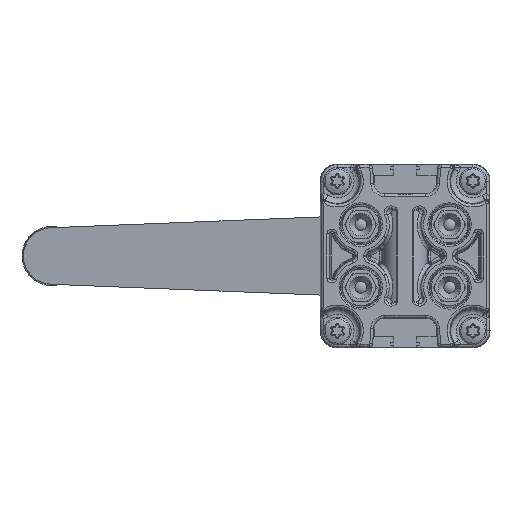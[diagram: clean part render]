
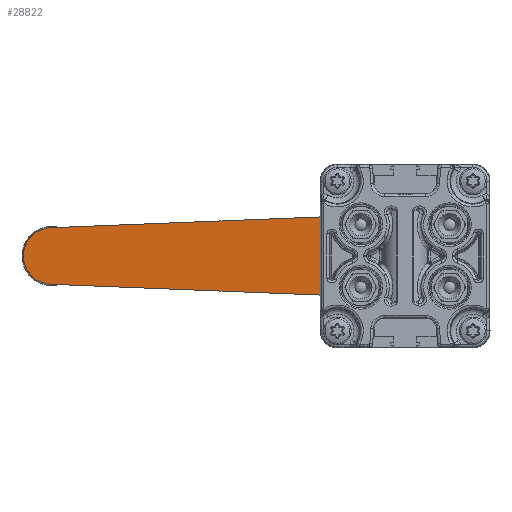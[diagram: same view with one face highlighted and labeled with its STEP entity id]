
A CAD part, left-side view. The second image highlights one B-rep face of the part: STEP entity #28822.
In plain terms, the highlighted planar face has unit normal (-0.997, 0.073, 0) as drawn and (0.997, 0.073, 0) by its records, which use the part's own axes.
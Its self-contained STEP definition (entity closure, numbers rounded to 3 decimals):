
#550=ELLIPSE('',#30699,15.04,15.);
#551=ELLIPSE('',#30700,10.027,10.);
#552=ELLIPSE('',#30701,12.784,12.75);
#2020=LINE('',#40232,#4055);
#2021=LINE('',#40236,#4056);
#4055=VECTOR('',#33303,1000.);
#4056=VECTOR('',#33306,1000.);
#6071=PLANE('',#30698);
#6957=ORIENTED_EDGE('',*,*,#15243,.T.);
#6958=ORIENTED_EDGE('',*,*,#15244,.T.);
#6959=ORIENTED_EDGE('',*,*,#15245,.T.);
#6960=ORIENTED_EDGE('',*,*,#15246,.T.);
#6961=ORIENTED_EDGE('',*,*,#15247,.F.);
#15243=EDGE_CURVE('',#19411,#19412,#550,.F.);
#15244=EDGE_CURVE('',#19412,#19413,#2020,.T.);
#15245=EDGE_CURVE('',#19413,#19414,#551,.F.);
#15246=EDGE_CURVE('',#19414,#19411,#2021,.T.);
#15247=EDGE_CURVE('',#19415,#19415,#552,.F.);
#19411=VERTEX_POINT('',#40230);
#19412=VERTEX_POINT('',#40231);
#19413=VERTEX_POINT('',#40233);
#19414=VERTEX_POINT('',#40235);
#19415=VERTEX_POINT('',#40238);
#23097=EDGE_LOOP('',(#6957,#6958,#6959,#6960));
#23098=EDGE_LOOP('',(#6961));
#25067=FACE_BOUND('',#23097,.T.);
#25068=FACE_BOUND('',#23098,.T.);
#28822=ADVANCED_FACE('',(#25067,#25068),#6071,.F.);
#30698=AXIS2_PLACEMENT_3D('',#40228,#33299,#33300);
#30699=AXIS2_PLACEMENT_3D('',#40229,#33301,#33302);
#30700=AXIS2_PLACEMENT_3D('',#40234,#33304,#33305);
#30701=AXIS2_PLACEMENT_3D('',#40237,#33307,#33308);
#33299=DIRECTION('',(-0.997,-0.073,0.));
#33300=DIRECTION('',(0.073,-0.997,0.));
#33301=DIRECTION('',(-0.997,-0.073,0.));
#33302=DIRECTION('',(-0.073,0.997,0.));
#33303=DIRECTION('',(-0.073,0.997,0.04));
#33304=DIRECTION('',(-0.997,-0.073,0.));
#33305=DIRECTION('',(-0.073,0.997,0.));
#33306=DIRECTION('',(0.073,-0.997,0.04));
#33307=DIRECTION('',(-0.997,-0.073,0.));
#33308=DIRECTION('',(-0.073,0.997,0.));
#40228=CARTESIAN_POINT('',(13.5,-15.6,57.9));
#40229=CARTESIAN_POINT('',(12.4,-0.6,0.));
#40230=CARTESIAN_POINT('',(12.356,0.,14.988));
#40231=CARTESIAN_POINT('',(12.356,0.,-14.988));
#40232=CARTESIAN_POINT('',(3.259,124.05,-10.022));
#40233=CARTESIAN_POINT('',(3.204,124.8,-9.992));
#40234=CARTESIAN_POINT('',(3.233,124.4,0.));
#40235=CARTESIAN_POINT('',(3.204,124.8,9.992));
#40236=CARTESIAN_POINT('',(12.362,-0.083,14.991));
#40237=CARTESIAN_POINT('',(12.4,-0.6,0.));
#40238=CARTESIAN_POINT('',(11.465,12.15,0.));
